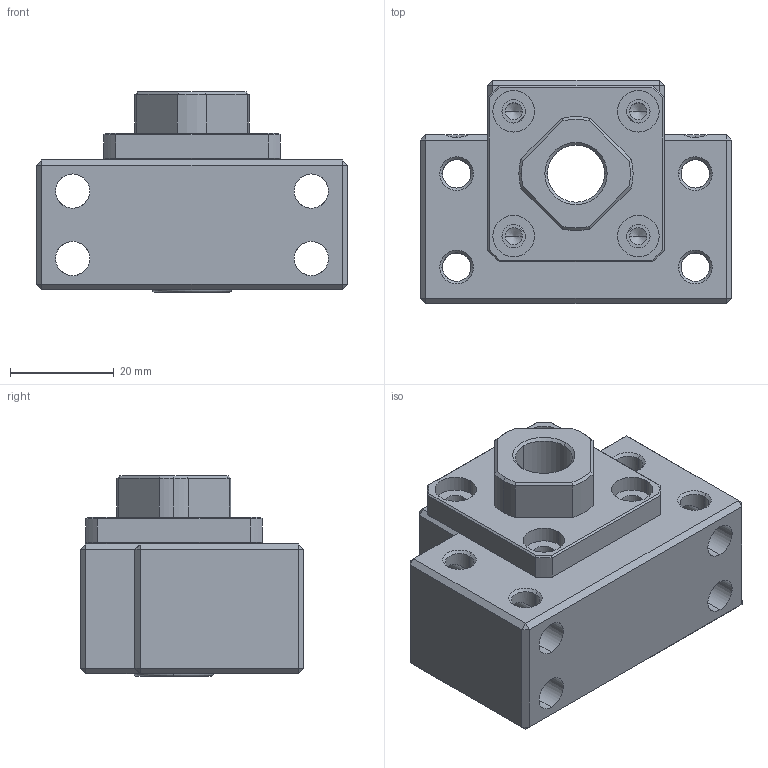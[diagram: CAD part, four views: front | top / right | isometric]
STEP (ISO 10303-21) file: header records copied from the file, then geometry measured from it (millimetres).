
FILE_DESCRIPTION (( 'STEP AP214' ), '1' );
FILE_NAME ('2.4006 Kuularuuvin tukilaakeri BK12.STEP', '2024-07-19T10:30:49', ( '' ), ( '' ), 'SwSTEP 2.0', 'SolidWorks 2024', '' );
FILE_SCHEMA (( 'AUTOMOTIVE_DESIGN' ));
Length unit declared in the file: millimetre
Products named in the file (1): 2.4006 Kuularuuvin tukilaakeri BK12
Bounding box: 60 x 43 x 38.65 mm (x, y, z)
Volume: 50169 mm3; surface area: 28469.4 mm2
Topology: 33 solids, 33 shells, 448 faces, 1131 edges, 696 vertices
Faces by surface type: cylinder 134, torus 104, plane 99, cone 63, sphere 48
Entity records: 17860 total; most frequent: CARTESIAN_POINT 3988, DIRECTION 2385, ORIENTED_EDGE 2006, AXIS2_PLACEMENT_3D 1029, EDGE_CURVE 1003, VERTEX_POINT 624, CIRCLE 580, EDGE_LOOP 509
